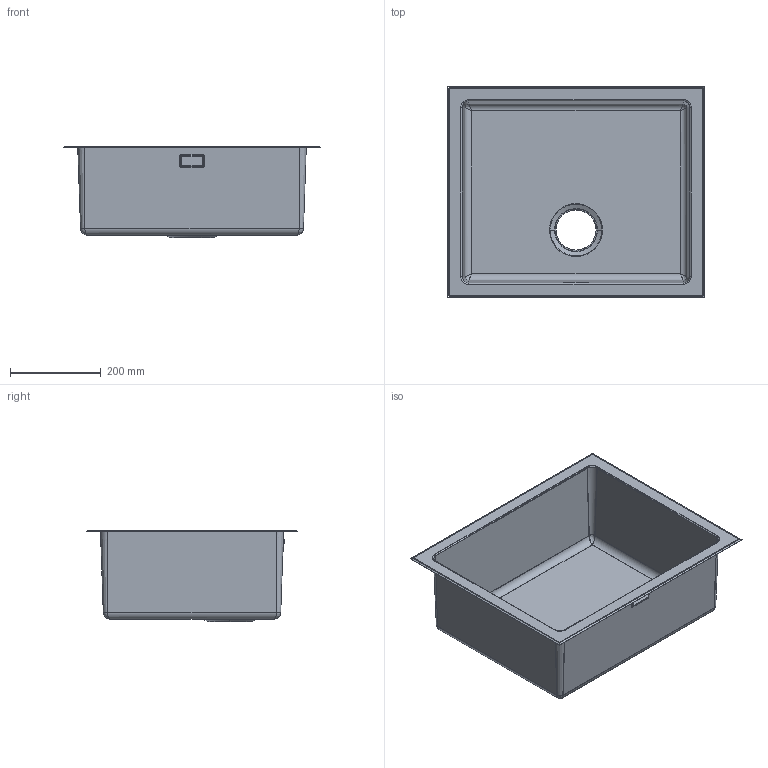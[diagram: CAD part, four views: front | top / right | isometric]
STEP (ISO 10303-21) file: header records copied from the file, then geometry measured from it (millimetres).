
FILE_DESCRIPTION(('CATIA V5 STEP Exchange'),'2;1');
FILE_NAME('\\sr02\Apell\Disegni\DISEGNI\LAVELLI\Radius\STP\4200225.stp','2017-10-17T13:32:00+00:00',('none'),('none'),'CATIA Version 5-6 Release 2014','CATIA V5 STEP AP203','none');
FILE_SCHEMA(('CONFIG_CONTROL_DESIGN'));
Length unit declared in the file: millimetre
Products named in the file (1): Part1
Bounding box: 567.35 x 466.14 x 200.9 mm (x, y, z)
Volume: 519848.1 mm3; surface area: 1157535.8 mm2
Topology: 1 solids, 1 shells, 166 faces, 372 edges, 208 vertices
Faces by surface type: bspline 58, plane 48, cylinder 44, torus 8, sphere 8
Entity records: 10610 total; most frequent: CARTESIAN_POINT 7508, ORIENTED_EDGE 736, DIRECTION 401, EDGE_CURVE 368, VERTEX_POINT 208, B_SPLINE_CURVE_WITH_KNOTS 183, EDGE_LOOP 174, ADVANCED_FACE 166
